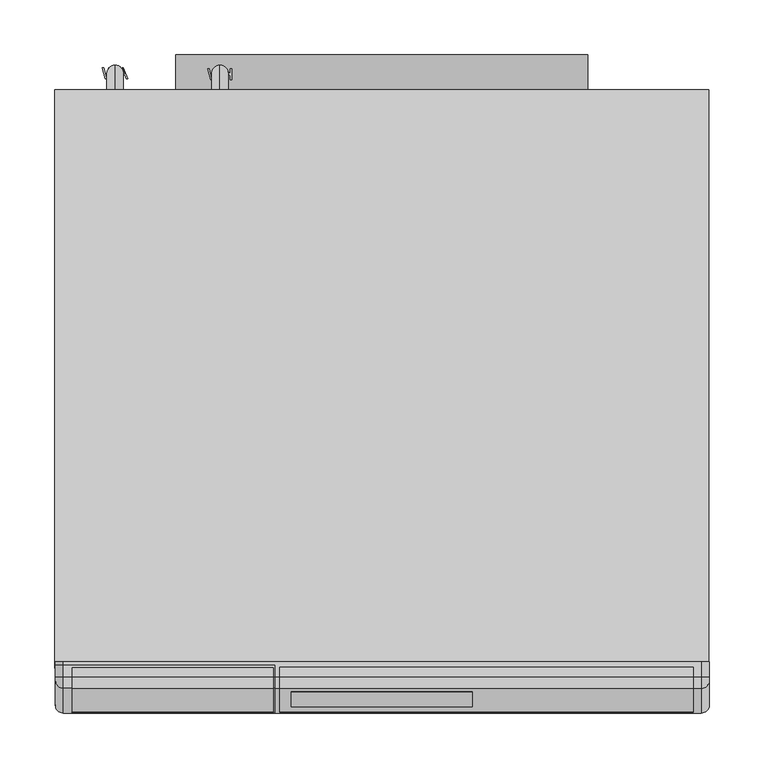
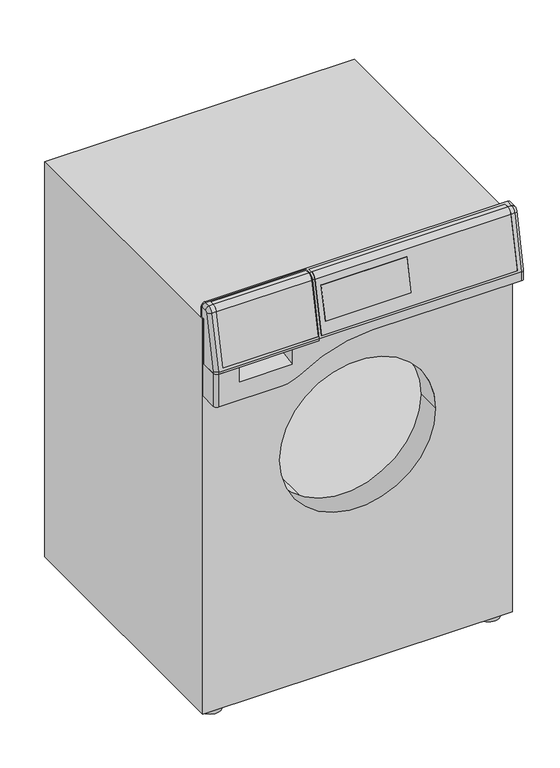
"""IFC4 building model written with IfcOpenShell, lengths in millimetres: proxy geometry, 12507000_AUS_PWM1108DP_LWSmartBi : 51110801_AUS_12507000_PWM1108DP_LWSmartBi."""

from ifc_helpers import new_model, si_unit, point, frame, frame_2d, origin, origin_with_axes, place, context, project, spatial, polyline, circle_curve, ellipse_curve, trimmed, segment, composite_curve, outline, extrude, source, transform, mapped, element, save
from ifc_brep_helpers import plane_surface, cylinder_surface, revolved_surface, advanced_brep


def specialty_equipment_c5ddfba9(model_context):
    return source(origin(), model_context, "Body", "SolidModel", [
        advanced_brep(
        [(-297.5, -556.5, 819.0), (-297.5, -562.0, 819.0), (-297.5, -562.0, 727.0), (-297.5, -593.0, 727.0), (-297.5, -593.0, 730.2642704), (-297.5, -570.6353607, 835.4816256), (-297.5, -566.8274781, 838.6486082), (-297.5, -556.5, 838.9190427), (-97.5, -577.4823939, 836.9370075), (-97.5, -600.0, 731.0), (-97.5, -600.0, 727.0), (-97.5, -562.0, 727.0), (-97.5, -562.0, 819.0), (-97.5, -556.5, 819.0), (-97.5, -556.5, 845.9214422), (-97.5, -567.0107168, 845.6462094), (-98.5, -577.4823939, 836.9370075), (-98.5, -599.1497738, 735.0), (-282.5, -599.1497738, 735.0), (-282.5, -577.4823939, 836.9370075), (-290.5, -577.4823939, 836.9370075), (-290.5, -600.0, 731.0), (-290.5, -600.0, 727.0), (-290.5, -556.5, 845.9214422), (-290.5, -567.0107168, 845.6462094), (-282.5, -567.0107168, 845.6462094), (-282.5, -558.5, 845.8690704), (-98.5, -558.5, 845.8690704), (-98.5, -567.0107168, 845.6462094), (-98.5, -576.5042463, 836.7290958), (-98.5, -598.1274332, 735.0), (-98.5, -558.5, 844.8687276), (-98.5, -566.9845398, 844.6465521), (-282.5, -576.5042463, 836.7290958), (-282.5, -566.9845398, 844.6465521), (-282.5, -558.5, 844.8687276), (-282.5, -598.1274332, 735.0)],
        [
            (0, 1),
            (1, 2),
            (2, 3),
            (3, 4),
            (4, 5),
            (5, 6, circle_curve(frame((-297.5, -566.7227703, 834.6499789), z_axis=(-1.0, 0.0, 0.0), x_axis=(0.0, -0.9781476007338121, 0.20791169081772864)), 4.0)),
            (6, 7),
            (7, 0),
            (8, 9),
            (9, 10),
            (10, 11),
            (11, 12),
            (12, 13),
            (13, 14),
            (14, 15),
            (15, 8, circle_curve(frame((-97.5, -566.7227703, 834.6499789), z_axis=(1.0, 0.0, 0.0), x_axis=(0.0, 1.0, 0.0)), 11.0)),
            (8, 16),
            (16, 17),
            (17, 18),
            (18, 19),
            (19, 20),
            (20, 21),
            (21, 9),
            (21, 22),
            (22, 10),
            (22, 3, circle_curve(frame((-290.5, -593.0, 727.0), z_axis=(0.0, 0.0, -1.0), x_axis=(0.0, 1.0, 0.0)), 7.0)),
            (2, 11),
            (1, 12),
            (0, 13),
            (7, 23, ellipse_curve(frame((-290.5, -556.5, 838.9190427), z_axis=(0.0, 1.0, 0.0), x_axis=(0.0, 0.0, 1.0)), 7.0023995, 7.0)),
            (23, 14),
            (23, 24),
            (24, 25),
            (25, 26),
            (26, 27),
            (27, 28),
            (28, 15),
            (28, 16, circle_curve(frame((-98.5, -566.7227703, 834.6499789), z_axis=(1.0, 0.0, 0.0), x_axis=(0.0, 1.0, 0.0)), 11.0)),
            (19, 25, circle_curve(frame((-282.5, -566.7227703, 834.6499789), z_axis=(-1.0, 0.0, 0.0), x_axis=(0.0, 1.0, 0.0)), 11.0)),
            (24, 20, circle_curve(frame((-290.5, -566.7227703, 834.6499789), z_axis=(1.0, 0.0, 0.0), x_axis=(0.0, 1.0, 0.0)), 11.0)),
            (29, 30),
            (30, 17),
            (27, 31),
            (31, 32),
            (32, 29, circle_curve(frame((-98.5, -566.7227703, 834.6499789), z_axis=(1.0, 0.0, 0.0), x_axis=(0.0, 1.0, 0.0)), 10.0)),
            (33, 34, circle_curve(frame((-282.5, -566.7227703, 834.6499789), z_axis=(-1.0, 0.0, 0.0), x_axis=(0.0, 1.0, 0.0)), 10.0)),
            (34, 35),
            (35, 26),
            (18, 36),
            (36, 33),
            (29, 33),
            (36, 30),
            (32, 34),
            (31, 35),
            (6, 24, circle_curve(frame((-290.5, -566.8274781, 838.6486082), z_axis=(0.0, 0.9996573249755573, 0.02617694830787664), x_axis=(0.0, 0.02617694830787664, -0.9996573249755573)), 7.0)),
            (21, 4, ellipse_curve(frame((-290.5, -593.0, 730.2642704), z_axis=(0.0, -0.10452846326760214, -0.9945218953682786), x_axis=(0.0, -0.9945218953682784, 0.1045284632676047)), 7.038558, 7.0)),
            (20, 5, circle_curve(frame((-290.5, -570.6353607, 835.4816256), z_axis=(0.0, -0.20791169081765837, -0.9781476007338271), x_axis=(0.0, 0.9781476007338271, -0.20791169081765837)), 7.0)),
        ],
        [
            plane_surface(frame((-297.5, -577.4823939, 836.9370075), z_axis=(-1.0, 0.0, 0.0), x_axis=(0.0, 0.20791169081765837, 0.9781476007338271))),
            plane_surface(frame((-97.5, -577.4823939, 836.9370075), z_axis=(1.0, 0.0, 0.0), x_axis=(0.0, -0.20791169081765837, -0.9781476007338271))),
            plane_surface(frame((-97.5, -577.4823939, 836.9370075), z_axis=(0.0, -0.9781476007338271, 0.20791169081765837), x_axis=(-1.0, 0.0, 0.0))),
            plane_surface(frame((-97.5, -600.0, 731.0), z_axis=(0.0, -1.0, 0.0), x_axis=(-1.0, 0.0, 0.0))),
            plane_surface(frame((-97.5, -600.0, 727.0), z_axis=(0.0, 0.0, -1.0), x_axis=(-1.0, 0.0, 0.0))),
            plane_surface(frame((-97.5, -562.0, 727.0), z_axis=(0.0, 1.0, 0.0), x_axis=(-1.0, 0.0, 0.0))),
            plane_surface(frame((-97.5, -562.0, 819.0), z_axis=(0.0, 0.0, -1.0), x_axis=(-1.0, 0.0, 0.0))),
            plane_surface(frame((-97.5, -556.5, 819.0), z_axis=(0.0, 1.0, 0.0), x_axis=(-1.0, 0.0, 0.0))),
            plane_surface(frame((-97.5, -556.5, 845.9214422), z_axis=(0.0, -0.02617694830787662, 0.9996573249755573), x_axis=(-1.0, 0.0, 0.0))),
            cylinder_surface(frame((-297.5, -566.7227703, 834.6499789), z_axis=(1.0, 0.0, 0.0), x_axis=(0.0, 1.0, 0.0)), 11.0),
            plane_surface(frame((-98.5, -556.7227703, 834.6499789), z_axis=(-1.0, 0.0, 0.0), x_axis=(0.0, 0.0, -1.0))),
            plane_surface(frame((-282.5, -556.7227703, 834.6499789), z_axis=(1.0, 0.0, 0.0), x_axis=(0.0, 0.0, 1.0))),
            plane_surface(frame((-98.5, -598.1274332, 735.0), z_axis=(0.0, -0.9781476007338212, 0.2079116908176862), x_axis=(-1.0, 0.0, 0.0))),
            cylinder_surface(frame((-282.5, -566.7227703, 834.6499789), z_axis=(-1.0, 0.0, 0.0), x_axis=(0.0, 1.0, 0.0)), 10.0),
            plane_surface(frame((-98.5, -566.9845398, 844.6465521), z_axis=(0.0, -0.026176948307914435, 0.9996573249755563), x_axis=(-1.0, 0.0, 0.0))),
            plane_surface(frame((-98.5, -558.5, 844.8687276), z_axis=(0.0, -1.0, 0.0), x_axis=(-1.0, 0.0, 0.0))),
            plane_surface(frame((-98.5, -599.1497738, 735.0), z_axis=(0.0, 0.0, 1.0), x_axis=(-1.0, 0.0, 0.0))),
            cylinder_surface(frame((-290.5, -566.8274781, 838.6486082), z_axis=(0.0, 0.9996573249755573, 0.02617694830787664), x_axis=(0.0, 0.02617694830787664, -0.9996573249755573)), 7.0),
            cylinder_surface(frame((-290.5, -593.0, 727.0), z_axis=(0.0, 0.0, 1.0), x_axis=(0.0, 1.0, 0.0)), 7.0),
            cylinder_surface(frame((-290.5, -593.1529668, 729.5446182), z_axis=(0.0, 0.20791169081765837, 0.9781476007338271), x_axis=(0.0, 0.9781476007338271, -0.20791169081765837)), 7.0),
            revolved_surface(trimmed(ellipse_curve(frame((-290.5, -570.6353607, 835.4816256), z_axis=(0.0, -0.20791169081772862, -0.9781476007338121), x_axis=(0.0, 0.9781476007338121, -0.20791169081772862)), 7.0, 7.0), [point((-290.5, -577.4823939, 836.9370075))], [point((-297.5, -570.6353607, 835.4816256))], True, "CARTESIAN"), (-297.5, -566.7227703, 834.6499789), (-1.0, 0.0, 0.0)),
        ],
        [
            (0, [[1, 2, 3, 4, 5, 6, 7, 8]]),
            (1, [[9, 10, 11, 12, 13, 14, 15, 16]]),
            (2, [[-9, 17, 18, 19, 20, 21, 22, 23]]),
            (3, [[-10, -23, 24, 25]]),
            (4, [[-11, -25, 26, -3, 27]]),
            (5, [[-2, 28, -12, -27]]),
            (6, [[-1, 29, -13, -28]]),
            (7, [[-14, -29, -8, 30, 31]]),
            (8, [[-15, -31, 32, 33, 34, 35, 36, 37]]),
            (9, [[-16, -37, 38, -17]]),
            (9, [[39, -33, 40, -21]]),
            (10, [[41, 42, -18, -38, -36, 43, 44, 45]]),
            (11, [[46, 47, 48, -34, -39, -20, 49, 50]]),
            (12, [[-41, 51, -50, 52]]),
            (13, [[-45, 53, -46, -51]]),
            (14, [[-44, 54, -47, -53]]),
            (15, [[-43, -35, -48, -54]]),
            (16, [[-42, -52, -49, -19]]),
            (17, [[55, -32, -30, -7]]),
            (18, [[56, -4, -26, -24]]),
            (19, [[-56, -22, 57, -5]]),
            (20, [[-57, -40, -55, -6]]),
        ],
    ),
        extrude(outline(polyline([(-593.2386322, 758.0), (-594.2609728, 758.0), (-580.4447963, 823.0), (-579.4224557, 823.0), (-593.2386322, 758.0)])), frame((-82.5, 0.0, 0.0), z_axis=(1.0, 0.0, 0.0), x_axis=(0.0, 1.0, 0.0)), (0.0, 0.0, 1.0), 165.0),
        advanced_brep(
        [(284.0, -576.5042463, 836.7290958), (284.0, -566.9845398, 844.6465521), (284.0, -558.5, 844.8687276), (284.0, -558.5, 845.8690704), (284.0, -567.0107168, 845.6462094), (284.0, -577.4823939, 836.9370075), (284.0, -599.1497738, 735.0), (284.0, -598.1274332, 735.0), (-93.0, -576.5042463, 836.7290958), (-93.0, -598.1274332, 735.0), (-93.0, -599.1497738, 735.0), (-93.0, -577.4823939, 836.9370075), (-93.0, -567.0107168, 845.6462094), (-93.0, -558.5, 845.8690704), (-93.0, -558.5, 844.8687276), (-93.0, -566.9845398, 844.6465521), (82.5, -580.4447963, 823.0), (82.5, -594.2609728, 758.0), (-82.5, -594.2609728, 758.0), (-82.5, -580.4447963, 823.0), (82.5, -593.2386322, 758.0), (82.5, -579.4224557, 823.0), (-82.5, -579.4224557, 823.0), (-82.5, -593.2386322, 758.0)],
        [
            (0, 1, circle_curve(frame((284.0, -566.7227703, 834.6499789), z_axis=(-1.0, 0.0, 0.0), x_axis=(0.0, 1.0, 0.0)), 10.0)),
            (1, 2),
            (2, 3),
            (3, 4),
            (4, 5, circle_curve(frame((284.0, -566.7227703, 834.6499789), z_axis=(1.0, 0.0, 0.0), x_axis=(0.0, 1.0, 0.0)), 11.0)),
            (5, 6),
            (6, 7),
            (7, 0),
            (8, 9),
            (9, 10),
            (10, 11),
            (11, 12, circle_curve(frame((-93.0, -566.7227703, 834.6499789), z_axis=(-1.0, 0.0, 0.0), x_axis=(0.0, 1.0, 0.0)), 11.0)),
            (12, 13),
            (13, 14),
            (14, 15),
            (15, 8, circle_curve(frame((-93.0, -566.7227703, 834.6499789), z_axis=(1.0, 0.0, 0.0), x_axis=(0.0, 1.0, 0.0)), 10.0)),
            (0, 8),
            (15, 1),
            (14, 2),
            (13, 3),
            (12, 4),
            (11, 5),
            (10, 6),
            (16, 17),
            (17, 18),
            (18, 19),
            (19, 16),
            (9, 7),
            (20, 21),
            (21, 22),
            (22, 23),
            (23, 20),
            (20, 17),
            (16, 21),
            (22, 19),
            (18, 23),
        ],
        [
            plane_surface(frame((284.0, -556.7227703, 834.6499789), z_axis=(1.0, 0.0, 0.0), x_axis=(0.0, 0.0, -1.0))),
            plane_surface(frame((-93.0, -556.7227703, 834.6499789), z_axis=(-1.0, 0.0, 0.0), x_axis=(0.0, 0.0, 1.0))),
            revolved_surface(polyline([(-93.0, -556.7227703, 834.6499789), (284.0, -556.7227703, 834.6499789)]), (-93.0, -566.7227703, 834.6499789), (-1.0, 0.0, 0.0)),
            plane_surface(frame((284.0, -566.9845398, 844.6465521), z_axis=(0.0, 0.02617694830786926, -0.9996573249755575), x_axis=(-1.0, 0.0, 0.0))),
            plane_surface(frame((284.0, -558.5, 844.8687276), z_axis=(0.0, 1.0, 0.0), x_axis=(-1.0, 0.0, 0.0))),
            plane_surface(frame((284.0, -558.5, 845.8690704), z_axis=(0.0, -0.026176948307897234, 0.9996573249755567), x_axis=(-1.0, 0.0, 0.0))),
            cylinder_surface(frame((-93.0, -566.7227703, 834.6499789), z_axis=(1.0, 0.0, 0.0), x_axis=(0.0, 1.0, 0.0)), 11.0),
            plane_surface(frame((284.0, -577.4823939, 836.9370075), z_axis=(0.0, -0.9781476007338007, 0.20791169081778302), x_axis=(-1.0, 0.0, 0.0))),
            plane_surface(frame((284.0, -599.1497738, 735.0), z_axis=(0.0, 0.0, -1.0), x_axis=(-1.0, 0.0, 0.0))),
            plane_surface(frame((284.0, -598.1274332, 735.0), z_axis=(0.0, 0.9781476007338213, -0.20791169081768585), x_axis=(-1.0, 0.0, 0.0))),
            plane_surface(frame((82.5, -580.4447963, 823.0), z_axis=(-1.0, 0.0, 0.0), x_axis=(0.0, -1.0, 0.0))),
            plane_surface(frame((-82.5, -580.4447963, 823.0), z_axis=(1.0, 0.0, 0.0), x_axis=(0.0, 1.0, 0.0))),
            plane_surface(frame((82.5, -579.4224557, 823.0), z_axis=(0.0, 0.0, -1.0), x_axis=(-1.0, 0.0, 0.0))),
            plane_surface(frame((82.5, -594.2609728, 758.0), z_axis=(0.0, 0.0, 1.0), x_axis=(-1.0, 0.0, 0.0))),
        ],
        [
            (0, [[1, 2, 3, 4, 5, 6, 7, 8]]),
            (1, [[9, 10, 11, 12, 13, 14, 15, 16]]),
            (2, [[-1, 17, -16, 18]]),
            (3, [[-2, -18, -15, 19]]),
            (4, [[-3, -19, -14, 20]]),
            (5, [[-4, -20, -13, 21]]),
            (6, [[-5, -21, -12, 22]]),
            (7, [[-6, -22, -11, 23], [24, 25, 26, 27]]),
            (8, [[-7, -23, -10, 28]]),
            (9, [[-8, -28, -9, -17], [29, 30, 31, 32]]),
            (10, [[33, -24, 34, -29]]),
            (11, [[35, -26, 36, -31]]),
            (12, [[-34, -27, -35, -30]]),
            (13, [[-33, -32, -36, -25]]),
        ],
    ),
        advanced_brep(
        [(298.5, -559.0, 816.0), (298.5, -553.5, 816.0), (298.5, -553.5, 838.9976005), (298.5, -566.8274781, 838.6486082), (298.5, -570.6353607, 835.4816256), (298.5, -593.0, 730.2642704), (298.5, -593.0, 713.0), (298.5, -559.0, 713.0), (-297.5, -559.0, 816.0), (-297.5, -559.0, 660.0), (-297.5, -593.0, 660.0), (-297.5, -593.0, 727.0), (-297.5, -562.0, 727.0), (-297.5, -562.0, 819.0), (-297.5, -556.5, 819.0), (-297.5, -556.5, 838.9190427), (-297.5, -553.5, 838.9976005), (-297.5, -553.5, 816.0), (-290.5, -553.5, 846.0), (291.5, -553.5, 846.0), (284.0, -558.5, 845.8690704), (284.0, -567.0107168, 845.6462094), (291.5, -567.0107168, 845.6462094), (-290.5, -556.5, 845.9214422), (-97.5, -556.5, 845.9214422), (-97.5, -567.0107168, 845.6462094), (-93.0, -567.0107168, 845.6462094), (-93.0, -558.5, 845.8690704), (284.0, -577.4823939, 836.9370075), (291.5000072, -577.4823939, 836.9370075), (-93.0, -577.4823939, 836.9370075), (-97.5, -577.4823939, 836.9370075), (284.0, -599.1497738, 735.0), (-93.0, -599.1497738, 735.0), (-97.5, -600.0, 731.0), (291.5, -600.0, 731.0), (-97.5, -600.0, 727.0), (-148.5, -600.0, 727.0), (-148.5, -600.0, 697.0), (-251.5, -600.0, 697.0), (-251.5, -600.0, 727.0), (-290.5, -600.0, 727.0), (-290.5, -600.0, 660.0), (-170.6302935, -600.0, 660.0), (-135.780818, -600.0, 670.5165354), (5.0, -600.0, 713.0), (291.5, -600.0, 713.0), (-170.6302935, -559.0, 660.0), (5.0, -559.0, 713.0), (-135.780818, -559.0, 670.5165354), (284.0, -558.5, 844.8687276), (284.0, -566.9845398, 844.6465521), (284.0, -576.5042463, 836.7290958), (284.0, -598.1274332, 735.0), (-93.0, -598.1274332, 735.0), (-93.0, -576.5042463, 836.7290958), (-93.0, -566.9845398, 844.6465521), (-93.0, -558.5, 844.8687276), (-97.5, -556.5, 819.0), (-97.5, -562.0, 819.0), (-97.5, -562.0, 727.0), (-148.5, -562.0, 727.0), (-251.5, -562.0, 727.0), (-251.5, -562.0, 703.7004253), (-148.5, -562.0, 703.7004253)],
        [
            (0, 1),
            (1, 2),
            (2, 3),
            (3, 4, circle_curve(frame((298.5, -566.7227703, 834.6499789), z_axis=(1.0, 0.0, 0.0), x_axis=(0.0, -0.02617694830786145, 0.9996573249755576)), 4.0)),
            (4, 5),
            (5, 6),
            (6, 7),
            (7, 0),
            (8, 9),
            (9, 10),
            (10, 11),
            (11, 12),
            (12, 13),
            (13, 14),
            (14, 15),
            (15, 16),
            (16, 17),
            (17, 8),
            (0, 8),
            (17, 1),
            (16, 18, ellipse_curve(frame((-290.5, -553.5, 838.9976005), z_axis=(0.0, 1.0, 0.0), x_axis=(0.0, 0.0, 1.0)), 7.0023995, 7.0)),
            (18, 19),
            (19, 2, ellipse_curve(frame((291.5, -553.5, 838.9976005), z_axis=(0.0, 1.0, 0.0), x_axis=(0.0, 0.0, -1.0)), 7.0023995, 7.0)),
            (20, 21),
            (21, 22),
            (22, 19),
            (18, 23),
            (23, 24),
            (24, 25),
            (25, 26),
            (26, 27),
            (27, 20),
            (21, 28, circle_curve(frame((284.0, -566.7227703, 834.6499789), z_axis=(1.0, 0.0, 0.0), x_axis=(0.0, 1.0, 0.0)), 11.0)),
            (28, 29),
            (29, 22, circle_curve(frame((291.5, -566.7227703, 834.6499789), z_axis=(-1.0, 0.0, 0.0), x_axis=(0.0, 1.0, 0.0)), 11.0)),
            (30, 26, circle_curve(frame((-93.0, -566.7227703, 834.6499789), z_axis=(-1.0, 0.0, 0.0), x_axis=(0.0, 1.0, 0.0)), 11.0)),
            (25, 31, circle_curve(frame((-97.5, -566.7227703, 834.6499789), z_axis=(1.0, 0.0, 0.0), x_axis=(0.0, 1.0, 0.0)), 11.0)),
            (31, 30),
            (28, 32),
            (32, 33),
            (33, 30),
            (31, 34),
            (34, 35),
            (35, 29),
            (34, 36),
            (36, 37),
            (37, 38),
            (38, 39),
            (39, 40),
            (40, 41),
            (41, 42),
            (42, 43),
            (43, 44, circle_curve(frame((-170.6302935, -600.0, 723.0), z_axis=(0.0, -1.0, 0.0), x_axis=(1.0, 0.0, 0.0)), 63.0)),
            (44, 45, circle_curve(frame((5.0, -600.0, 458.5), z_axis=(0.0, 1.0, 0.0), x_axis=(1.0, 0.0, 0.0)), 254.5)),
            (45, 46),
            (46, 35),
            (9, 47),
            (47, 43),
            (42, 10, circle_curve(frame((-290.5, -593.0, 660.0), z_axis=(0.0, 0.0, -1.0), x_axis=(0.0, 1.0, 0.0)), 7.0)),
            (7, 48),
            (48, 49, circle_curve(frame((5.0, -559.0, 458.5), z_axis=(0.0, -1.0, 0.0), x_axis=(1.0, 0.0, 0.0)), 254.5)),
            (49, 47, circle_curve(frame((-170.6302935, -559.0, 723.0), z_axis=(0.0, 1.0, 0.0), x_axis=(1.0, 0.0, 0.0)), 63.0)),
            (20, 50),
            (50, 51),
            (51, 52, circle_curve(frame((284.0, -566.7227703, 834.6499789), z_axis=(1.0, 0.0, 0.0), x_axis=(0.0, 1.0, 0.0)), 10.0)),
            (52, 53),
            (53, 32),
            (33, 54),
            (54, 55),
            (55, 56, circle_curve(frame((-93.0, -566.7227703, 834.6499789), z_axis=(-1.0, 0.0, 0.0), x_axis=(0.0, 1.0, 0.0)), 10.0)),
            (56, 57),
            (57, 27),
            (53, 54),
            (52, 55),
            (51, 56),
            (50, 57),
            (24, 58),
            (58, 59),
            (59, 60),
            (60, 36),
            (60, 61),
            (61, 37),
            (62, 12),
            (11, 41, circle_curve(frame((-290.5, -593.0, 727.0), z_axis=(0.0, 0.0, 1.0), x_axis=(0.0, 1.0, 0.0)), 7.0)),
            (40, 62),
            (59, 13),
            (62, 63),
            (63, 64),
            (64, 61),
            (58, 14),
            (23, 15, ellipse_curve(frame((-290.5, -556.5, 838.9190427), z_axis=(0.0, -1.0, 0.0), x_axis=(0.0, 0.0, 1.0)), 7.0023995, 7.0)),
            (64, 38),
            (39, 63),
            (22, 3, circle_curve(frame((291.5, -566.8274781, 838.6486082), z_axis=(0.0, 0.9996573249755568, 0.026176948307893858), x_axis=(1.0, 0.0, 0.0)), 7.0)),
            (29, 4, circle_curve(frame((291.5, -570.6353607, 835.4816256), z_axis=(0.0, 0.20791169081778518, 0.9781476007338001), x_axis=(1.0, 0.0, 0.0)), 7.0)),
            (35, 5, ellipse_curve(frame((291.5, -593.0, 730.2642704), z_axis=(0.0, 0.10452846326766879, 0.9945218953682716), x_axis=(0.0, -0.9945218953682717, 0.10452846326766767)), 7.038558, 7.0)),
            (46, 6, circle_curve(frame((291.5, -593.0, 713.0), z_axis=(0.0, 0.0, 1.0), x_axis=(1.0, 0.0, 0.0)), 7.0)),
            (45, 48),
            (44, 49),
        ],
        [
            plane_surface(frame((298.5, -553.5, 816.0), z_axis=(1.0, 0.0, 0.0), x_axis=(0.0, 1.0, 0.0))),
            plane_surface(frame((-297.5, -553.5, 816.0), z_axis=(-1.0, 0.0, 0.0), x_axis=(0.0, -1.0, 0.0))),
            plane_surface(frame((298.5, -559.0, 816.0), z_axis=(0.0, 0.0, -1.0), x_axis=(-1.0, 0.0, 0.0))),
            plane_surface(frame((298.5, -553.5, 816.0), z_axis=(0.0, 1.0, 0.0), x_axis=(-1.0, 0.0, 0.0))),
            plane_surface(frame((298.5, -553.5, 846.0), z_axis=(0.0, -0.02617694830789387, 0.9996573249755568), x_axis=(-1.0, 0.0, 0.0))),
            cylinder_surface(frame((-297.5, -566.7227703, 834.6499789), z_axis=(1.0, 0.0, 0.0), x_axis=(0.0, 1.0, 0.0)), 11.0),
            plane_surface(frame((298.5, -577.4823939, 836.9370075), z_axis=(0.0, -0.9781476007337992, 0.20791169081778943), x_axis=(-1.0, 0.0, 0.0))),
            plane_surface(frame((298.5, -600.0, 731.0), z_axis=(0.0, -1.0, 0.0), x_axis=(-1.0, 0.0, 0.0))),
            plane_surface(frame((298.5, -600.0, 660.0), z_axis=(0.0, 0.0, -1.0), x_axis=(-1.0, 0.0, 0.0))),
            plane_surface(frame((298.5, -559.0, 660.0), z_axis=(0.0, 1.0, 0.0), x_axis=(-1.0, 0.0, 0.0))),
            plane_surface(frame((284.0, -599.1497738, 735.0), z_axis=(-1.0, 0.0, 0.0), x_axis=(0.0, 1.0, 0.0))),
            plane_surface(frame((-93.0, -599.1497738, 735.0), z_axis=(1.0, 0.0, 0.0), x_axis=(0.0, -1.0, 0.0))),
            plane_surface(frame((284.0, -599.1497738, 735.0), z_axis=(0.0, 0.0, 1.0), x_axis=(-1.0, 0.0, 0.0))),
            plane_surface(frame((284.0, -598.1274332, 735.0), z_axis=(0.0, -0.978147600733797, 0.20791169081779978), x_axis=(-1.0, 0.0, 0.0))),
            cylinder_surface(frame((-93.0, -566.7227703, 834.6499789), z_axis=(-1.0, 0.0, 0.0), x_axis=(0.0, 1.0, 0.0)), 10.0),
            plane_surface(frame((284.0, -566.9845398, 844.6465521), z_axis=(0.0, -0.026176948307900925, 0.9996573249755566), x_axis=(-1.0, 0.0, 0.0))),
            plane_surface(frame((284.0, -558.5, 844.8687276), z_axis=(0.0, -1.0, 0.0), x_axis=(-1.0, 0.0, 0.0))),
            plane_surface(frame((-97.5, -600.0, 727.0), z_axis=(-1.0, 0.0, 0.0), x_axis=(0.0, 1.0, 0.0))),
            plane_surface(frame((-97.5, -600.0, 727.0), z_axis=(0.0, 0.0, 1.0), x_axis=(-1.0, 0.0, 0.0))),
            plane_surface(frame((-97.5, -562.0, 727.0), z_axis=(0.0, -1.0, 0.0), x_axis=(-1.0, 0.0, 0.0))),
            plane_surface(frame((-97.5, -562.0, 819.0), z_axis=(0.0, 0.0, 1.0), x_axis=(-1.0, 0.0, 0.0))),
            plane_surface(frame((-97.5, -556.5, 819.0), z_axis=(0.0, -1.0, 0.0), x_axis=(-1.0, 0.0, 0.0))),
            plane_surface(frame((-148.5, -600.0, 697.0), z_axis=(-1.0, 0.0, 0.0), x_axis=(0.0, 0.9848077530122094, 0.17364817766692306))),
            plane_surface(frame((-251.5, -600.0, 697.0), z_axis=(1.0, 0.0, 0.0), x_axis=(0.0, -0.9848077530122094, -0.17364817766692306))),
            plane_surface(frame((-148.5, -600.0, 697.0), z_axis=(0.0, -0.17364817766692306, 0.9848077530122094), x_axis=(-1.0, 0.0, 0.0))),
            cylinder_surface(frame((-290.5, -593.0, 660.0), z_axis=(0.0, 0.0, 1.0), x_axis=(0.0, 1.0, 0.0)), 7.0),
            cylinder_surface(frame((-290.5, -566.8274781, 838.6486082), z_axis=(0.0, 0.9996573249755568, 0.026176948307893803), x_axis=(0.0, 0.026176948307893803, -0.9996573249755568)), 7.0),
            cylinder_surface(frame((291.5, -553.3167614, 839.0023987), z_axis=(0.0, -0.9996573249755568, -0.026176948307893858), x_axis=(1.0, 0.0, 0.0)), 7.0),
            revolved_surface(trimmed(ellipse_curve(frame((291.5, -566.8274781, 838.6486082), z_axis=(0.0, 0.9996573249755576, 0.02617694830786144), x_axis=(1.0, 0.0, 0.0)), 7.0, 7.0), [point((291.5, -567.0107168, 845.6462094))], [point((298.5, -566.8274781, 838.6486082))], True, "CARTESIAN"), (298.5, -566.7227703, 834.6499789), (1.0, 0.0, 0.0)),
            cylinder_surface(frame((291.5, -570.6353607, 835.4816256), z_axis=(0.0, -0.20791169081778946, -0.9781476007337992), x_axis=(1.0, 0.0, 0.0)), 7.0),
            cylinder_surface(frame((291.5, -593.0, 731.0), z_axis=(0.0, 0.0, -1.0), x_axis=(1.0, 0.0, 0.0)), 7.0),
            plane_surface(frame((298.5, -600.0, 713.0), z_axis=(0.0, 0.0, -1.0), x_axis=(0.0, 1.0, 0.0))),
            revolved_surface(polyline([(259.5, -600.0, 458.5), (259.5, -559.0, 458.5)]), (5.0, -559.0, 458.5), (0.0, -1.0, 0.0)),
            cylinder_surface(frame((-170.6302935, -559.0, 723.0), z_axis=(0.0, 1.0, 0.0), x_axis=(1.0, 0.0, 0.0)), 63.0),
        ],
        [
            (0, [[1, 2, 3, 4, 5, 6, 7, 8]]),
            (1, [[9, 10, 11, 12, 13, 14, 15, 16, 17, 18]]),
            (2, [[-1, 19, -18, 20]]),
            (3, [[-20, -17, 21, 22, 23, -2]]),
            (4, [[24, 25, 26, -22, 27, 28, 29, 30, 31, 32]]),
            (5, [[33, 34, 35, -25]]),
            (5, [[36, -30, 37, 38]]),
            (6, [[39, 40, 41, -38, 42, 43, 44, -34]]),
            (7, [[45, 46, 47, 48, 49, 50, 51, 52, 53, 54, 55, 56, -43]]),
            (8, [[-10, 57, 58, -52, 59]]),
            (9, [[-9, -19, -8, 60, 61, 62, -57]]),
            (10, [[63, 64, 65, 66, 67, -39, -33, -24]]),
            (11, [[68, 69, 70, 71, 72, -31, -36, -41]]),
            (12, [[-67, 73, -68, -40]]),
            (13, [[-66, 74, -69, -73]]),
            (14, [[-65, 75, -70, -74]]),
            (15, [[-64, 76, -71, -75]]),
            (16, [[-63, -32, -72, -76]]),
            (17, [[77, 78, 79, 80, -45, -42, -37, -29]]),
            (18, [[-80, 81, 82, -46]]),
            (18, [[83, -12, 84, -50, 85]]),
            (19, [[-79, 86, -13, -83, 87, 88, 89, -81]]),
            (20, [[-78, 90, -14, -86]]),
            (21, [[-77, -28, 91, -15, -90]]),
            (22, [[-89, 92, -47, -82]]),
            (23, [[93, -87, -85, -49]]),
            (24, [[-92, -88, -93, -48]]),
            (25, [[-11, -59, -51, -84]]),
            (26, [[-16, -91, -27, -21]]),
            (27, [[94, -3, -23, -26]]),
            (28, [[-94, -35, 95, -4]]),
            (29, [[-95, -44, 96, -5]]),
            (30, [[-96, -56, 97, -6]]),
            (31, [[98, -60, -7, -97, -55]]),
            (32, [[-98, -54, 99, -61]]),
            (33, [[-99, -53, -58, -62]]),
        ],
    ),
        extrude(outline(composite_curve([segment(polyline([(-598.1274332, 735.0), (-599.1497738, 735.0), (-577.4823939, 836.9370075)]), True, "CONTINUOUS"), segment(trimmed(circle_curve(frame_2d((-566.7227703, 834.6499789)), 11.0), [point((-577.4823939, 836.9370075))], [point((-567.0107168, 845.6462094))], False, "CARTESIAN"), True, "CONTINUOUS"), segment(polyline([(-567.0107168, 845.6462094), (-558.5, 845.8690704), (-558.5, 844.8687276), (-566.9845398, 844.6465521)]), True, "CONTINUOUS"), segment(trimmed(circle_curve(frame_2d((-566.7227703, 834.6499789)), 10.0), [point((-566.9845398, 844.6465521))], [point((-576.5042463, 836.7290958))], True, "CARTESIAN"), True, "CONTINUOUS"), segment(polyline([(-576.5042463, 836.7290958), (-598.1274332, 735.0)]), True, "CONTINUOUS")], self_intersect=False)), frame((-282.5, 0.0, 0.0), z_axis=(1.0, 0.0, 0.0), x_axis=(0.0, 1.0, 0.0)), (0.0, 0.0, 1.0), 184.0),
        extrude(outline(polyline([(-24.4084549, 43.3578802), (-24.4084549, 53.4035112), (-17.1881576, 53.4035112), (-17.1881576, 52.1478073), (-23.152751, 52.1478073), (-23.152751, 49.1655106), (-17.5020836, 49.1655106), (-17.5020836, 47.9098068), (-23.152751, 47.9098068), (-23.152751, 44.6135841), (-17.0311946, 44.6135841), (-17.0311946, 43.3578802), (-24.4084549, 43.3578802)])), frame((-104.0, 0.0, 0.0), z_axis=(1.0, 0.0, 0.0), x_axis=(0.0, 1.0, 0.0)), (0.0, 0.0, 1.0), 1.0),
        extrude(outline(polyline([(-15.1476388, 43.3578802), (-15.1476388, 53.4035112), (-13.8919349, 53.4035112), (-13.8919349, 44.6135841), (-8.8691194, 44.6135841), (-8.8691194, 43.3578802), (-15.1476388, 43.3578802)])), frame((-104.0, 0.0, 0.0), z_axis=(1.0, 0.0, 0.0), x_axis=(0.0, 1.0, 0.0)), (0.0, 0.0, 1.0), 1.0),
        advanced_brep(
        [(-243.0, -32.0, 741.5), (-243.0, -32.0, 756.5), (-243.0, -24.5, 741.5), (-243.0, -9.5, 756.5), (-243.0, -24.5, 719.0), (-243.0, -9.5, 719.0)],
        [
            (0, 1, circle_curve(frame((-243.0, -32.0, 749.0), z_axis=(0.0, -1.0, 0.0), x_axis=(0.0, 0.0, 1.0)), 7.5)),
            (1, 0, circle_curve(frame((-243.0, -32.0, 749.0), z_axis=(0.0, -1.0, 0.0), x_axis=(0.0, 0.0, 1.0)), 7.5)),
            (0, 2),
            (2, 3, ellipse_curve(frame((-243.0, -17.0, 749.0), z_axis=(0.0, -0.7071067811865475, 0.7071067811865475), x_axis=(0.0, -0.7071067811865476, -0.7071067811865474)), 10.6066017, 7.5)),
            (3, 1),
            (3, 2, ellipse_curve(frame((-243.0, -17.0, 749.0), z_axis=(0.0, -0.7071067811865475, 0.7071067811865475), x_axis=(0.0, -0.7071067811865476, -0.7071067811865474)), 10.6066017, 7.5)),
            (4, 5, circle_curve(frame((-243.0, -17.0, 719.0), z_axis=(0.0, 0.0, -1.0), x_axis=(0.0, 1.0, 0.0)), 7.5)),
            (5, 4, circle_curve(frame((-243.0, -17.0, 719.0), z_axis=(0.0, 0.0, -1.0), x_axis=(0.0, 1.0, 0.0)), 7.5)),
            (2, 4),
            (5, 3),
        ],
        [
            plane_surface(frame((-298.0, -32.0, 749.0), z_axis=(0.0, -1.0, 0.0), x_axis=(1.0, 0.0, 0.0))),
            cylinder_surface(frame((-243.0, -32.0, 749.0), z_axis=(0.0, -1.0, 0.0), x_axis=(0.0, 0.0, 1.0)), 7.5),
            plane_surface(frame((-298.0, -17.0, 719.0), z_axis=(0.0, 0.0, -1.0), x_axis=(1.0, 0.0, 0.0))),
            cylinder_surface(frame((-243.0, -17.0, 749.0), z_axis=(0.0, 0.0, 1.0), x_axis=(0.0, 1.0, 0.0)), 7.5),
        ],
        [
            (0, [[1, 2]]),
            (1, [[-1, 3, 4, 5]]),
            (1, [[-2, -5, 6, -3]]),
            (2, [[7, 8]]),
            (3, [[-4, 9, -8, 10]]),
            (3, [[-6, -10, -7, -9]]),
        ],
    ),
        advanced_brep(
        [(-147.5, -32.0, 748.5), (-147.5, -32.0, 763.5), (-147.5, -24.5, 748.5), (-147.5, -9.5, 763.5), (-147.5, -24.5, 726.0), (-147.5, -9.5, 726.0)],
        [
            (0, 1, circle_curve(frame((-147.5, -32.0, 756.0), z_axis=(0.0, -1.0, 0.0), x_axis=(0.0, 0.0, 1.0)), 7.5)),
            (1, 0, circle_curve(frame((-147.5, -32.0, 756.0), z_axis=(0.0, -1.0, 0.0), x_axis=(0.0, 0.0, 1.0)), 7.5)),
            (0, 2),
            (2, 3, ellipse_curve(frame((-147.5, -17.0, 756.0), z_axis=(0.0, -0.7071067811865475, 0.7071067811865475), x_axis=(0.0, -0.7071067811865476, -0.7071067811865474)), 10.6066017, 7.5)),
            (3, 1),
            (3, 2, ellipse_curve(frame((-147.5, -17.0, 756.0), z_axis=(0.0, -0.7071067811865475, 0.7071067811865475), x_axis=(0.0, -0.7071067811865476, -0.7071067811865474)), 10.6066017, 7.5)),
            (4, 5, circle_curve(frame((-147.5, -17.0, 726.0), z_axis=(0.0, 0.0, -1.0), x_axis=(0.0, 1.0, 0.0)), 7.5)),
            (5, 4, circle_curve(frame((-147.5, -17.0, 726.0), z_axis=(0.0, 0.0, -1.0), x_axis=(0.0, 1.0, 0.0)), 7.5)),
            (2, 4),
            (5, 3),
        ],
        [
            plane_surface(frame((-298.0, -32.0, 756.0), z_axis=(0.0, -1.0, 0.0), x_axis=(1.0, 0.0, 0.0))),
            cylinder_surface(frame((-147.5, -32.0, 756.0), z_axis=(0.0, -1.0, 0.0), x_axis=(0.0, 0.0, 1.0)), 7.5),
            plane_surface(frame((-298.0, -17.0, 726.0), z_axis=(0.0, 0.0, -1.0), x_axis=(1.0, 0.0, 0.0))),
            cylinder_surface(frame((-147.5, -17.0, 756.0), z_axis=(0.0, 0.0, 1.0), x_axis=(0.0, 1.0, 0.0)), 7.5),
        ],
        [
            (0, [[1, 2]]),
            (1, [[-1, 3, 4, 5]]),
            (1, [[-2, -5, 6, -3]]),
            (2, [[7, 8]]),
            (3, [[-4, 9, -8, 10]]),
            (3, [[-6, -10, -7, -9]]),
        ],
    ),
        advanced_brep(
        [(-126.47, -32.0, 49.0), (-141.53, -32.0, 49.0), (-126.47, -24.53, 49.0), (-141.53, -9.47, 49.0), (-104.0, -24.53, 49.0), (-104.0, -9.47, 49.0)],
        [
            (0, 1, circle_curve(frame((-134.0, -32.0, 49.0), z_axis=(0.0, -1.0, 0.0), x_axis=(-1.0, 0.0, 0.0)), 7.53)),
            (1, 0, circle_curve(frame((-134.0, -32.0, 49.0), z_axis=(0.0, -1.0, 0.0), x_axis=(-1.0, 0.0, 0.0)), 7.53)),
            (0, 2),
            (2, 3, ellipse_curve(frame((-134.0, -17.0, 49.0), z_axis=(-0.7071067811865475, -0.7071067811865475, 0.0), x_axis=(0.7071067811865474, -0.7071067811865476, 0.0)), 10.6490281, 7.53)),
            (3, 1),
            (3, 2, ellipse_curve(frame((-134.0, -17.0, 49.0), z_axis=(-0.7071067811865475, -0.7071067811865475, 0.0), x_axis=(0.7071067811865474, -0.7071067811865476, 0.0)), 10.6490281, 7.53)),
            (4, 5, circle_curve(frame((-104.0, -17.0, 49.0), z_axis=(1.0, 0.0, 0.0), x_axis=(0.0, 1.0, 0.0)), 7.53)),
            (5, 4, circle_curve(frame((-104.0, -17.0, 49.0), z_axis=(1.0, 0.0, 0.0), x_axis=(0.0, 1.0, 0.0)), 7.53)),
            (2, 4),
            (5, 3),
        ],
        [
            plane_surface(frame((-134.0, -32.0, 49.0), z_axis=(0.0, -1.0, 0.0), x_axis=(0.0, 0.0, 1.0))),
            cylinder_surface(frame((-134.0, -32.0, 49.0), z_axis=(0.0, -1.0, 0.0), x_axis=(-1.0, 0.0, 0.0)), 7.53),
            plane_surface(frame((-104.0, -17.0, 49.0), z_axis=(1.0, 0.0, 0.0), x_axis=(0.0, 0.0, 1.0))),
            cylinder_surface(frame((-134.0, -17.0, 49.0), z_axis=(-1.0, 0.0, 0.0), x_axis=(0.0, 1.0, 0.0)), 7.53),
        ],
        [
            (0, [[1, 2]]),
            (1, [[-1, 3, 4, 5]]),
            (1, [[-2, -5, 6, -3]]),
            (2, [[7, 8]]),
            (3, [[-4, 9, -8, 10]]),
            (3, [[-6, -10, -7, -9]]),
        ],
    ),
        extrude(outline(polyline([(-242.3328325, -11.5432991), (-241.045573, -11.5432991), (-243.7871605, -21.5911606), (-245.2786819, -21.5911606), (-247.876111, -12.7564539), (-250.6220692, -21.5921036), (-251.9577353, -21.5921036), (-254.7194846, -11.5430576), (-253.4032431, -11.5430576), (-251.3217922, -20.1784741), (-248.8047046, -11.5508675), (-246.9543361, -11.5508675), (-244.4173512, -20.1799835), (-242.3328325, -11.5432991)])), frame((0.0, 0.0, 718.0), z_axis=(0.0, 0.0, 1.0), x_axis=(1.0, 0.0, 0.0)), (0.0, 0.0, 1.0), 1.0),
        extrude(outline(polyline([(-239.333372, -21.574188), (-240.6273043, -21.574188), (-236.7074505, -11.5784384), (-235.591752, -11.5784384), (-231.5444067, -21.5959696), (-232.8665334, -21.5959696), (-234.0054153, -18.4669174), (-238.202418, -18.4669174), (-239.333372, -21.574188)]), holes=[polyline([(-234.4815827, -17.1586581), (-236.1039166, -12.7013323), (-237.7262505, -17.1586581), (-234.4815827, -17.1586581)])]), frame((0.0, 0.0, 718.0), z_axis=(0.0, 0.0, 1.0), x_axis=(1.0, 0.0, 0.0)), (0.0, 0.0, 1.0), 1.0),
        extrude(outline(polyline([(-145.0261465, -12.5007462), (-147.7802604, -22.5531732), (-149.2939382, -22.5531732), (-151.8248628, -13.7267901), (-154.6175023, -22.5531732), (-155.9738207, -22.5531732), (-158.6902114, -12.5019632), (-157.3931303, -12.5019632), (-155.3150518, -21.1403099), (-152.7959194, -12.5061012), (-150.9261599, -12.5061012), (-148.4583676, -21.1123159), (-146.3351399, -12.5007462), (-145.0261465, -12.5007462)])), frame((0.0, 0.0, 725.0), z_axis=(0.0, 0.0, 1.0), x_axis=(1.0, 0.0, 0.0)), (0.0, 0.0, 1.0), 1.0),
        extrude(outline(polyline([(-143.51792, -22.5205733), (-145.0709529, -22.5205733), (-140.5462535, -16.6233265), (-144.7263604, -12.6505872), (-142.9764211, -12.6505872), (-137.9703359, -17.4083296), (-137.9703359, -12.5146369), (-136.7395415, -12.5146369), (-136.7395415, -22.5738423), (-137.9296943, -22.5738423), (-137.9296943, -19.2158936), (-139.6570554, -17.4885326), (-143.51792, -22.5205733)])), frame((0.0, 0.0, 725.0), z_axis=(0.0, 0.0, 1.0), x_axis=(1.0, 0.0, 0.0)), (0.0, 0.0, 1.0), 1.0),
        advanced_brep(
        [(291.0, -470.0, 449.0), (291.0, -470.0, 379.0), (291.0, -120.0, 379.0), (291.0, -120.0, 449.0), (298.0, -470.0, 449.0), (298.0, -470.0, 379.0), (298.0, -120.0, 379.0), (298.0, -120.0, 449.0), (298.0, -32.0, 816.0), (298.0, -32.0, 13.5), (-298.0, -32.0, 13.5), (-298.0, -32.0, 816.0), (298.0, -559.0, 816.0), (-298.0, -559.0, 816.0), (-298.0, -559.0, 13.5), (298.0, -559.0, 13.5), (150.0, -559.0, 478.0), (-150.0, -559.0, 478.0), (298.0, -470.0, 650.0), (298.0, -470.0, 720.0), (298.0, -120.0, 720.0), (298.0, -120.0, 650.0), (298.0, -470.0, 553.0), (298.0, -470.0, 623.0), (298.0, -120.0, 623.0), (298.0, -120.0, 553.0), (298.0, -470.0, 282.0), (298.0, -470.0, 352.0), (298.0, -120.0, 352.0), (298.0, -120.0, 282.0), (298.0, -470.0, 185.0), (298.0, -470.0, 255.0), (298.0, -120.0, 255.0), (298.0, -120.0, 185.0), (291.0, -470.0, 720.0), (291.0, -470.0, 650.0), (291.0, -120.0, 650.0), (291.0, -120.0, 720.0), (291.0, -470.0, 623.0), (291.0, -470.0, 553.0), (291.0, -120.0, 553.0), (291.0, -120.0, 623.0), (291.0, -470.0, 352.0), (291.0, -470.0, 282.0), (291.0, -120.0, 282.0), (291.0, -120.0, 352.0), (291.0, -470.0, 255.0), (291.0, -470.0, 185.0), (291.0, -120.0, 185.0), (291.0, -120.0, 255.0), (-150.0, -511.0, 478.0), (150.0, -511.0, 478.0), (0.0, -149.0, 238.0), (0.0, -149.0, 718.0), (0.0, -511.0, 238.0), (0.0, -511.0, 718.0)],
        [
            (0, 1, circle_curve(frame((291.0, -470.0, 414.0), z_axis=(1.0, 0.0, 0.0), x_axis=(0.0, 1.0, 0.0)), 35.0)),
            (1, 2),
            (2, 3, circle_curve(frame((291.0, -120.0, 414.0), z_axis=(1.0, 0.0, 0.0), x_axis=(0.0, 1.0, 0.0)), 35.0)),
            (3, 0),
            (0, 4),
            (4, 5, circle_curve(frame((298.0, -470.0, 414.0), z_axis=(1.0, 0.0, 0.0), x_axis=(0.0, 1.0, 0.0)), 35.0)),
            (5, 1),
            (5, 6),
            (6, 2),
            (6, 7, circle_curve(frame((298.0, -120.0, 414.0), z_axis=(1.0, 0.0, 0.0), x_axis=(0.0, 1.0, 0.0)), 35.0)),
            (7, 3),
            (7, 4),
            (8, 9),
            (9, 10),
            (10, 11),
            (11, 8),
            (12, 13),
            (13, 14),
            (14, 15),
            (15, 12),
            (16, 17, circle_curve(frame((0.0, -559.0, 478.0), z_axis=(0.0, 1.0, 0.0), x_axis=(-1.0, 0.0, 0.0)), 150.0)),
            (17, 16, circle_curve(frame((0.0, -559.0, 478.0), z_axis=(0.0, 1.0, 0.0), x_axis=(-1.0, 0.0, 0.0)), 150.0)),
            (8, 12),
            (15, 9),
            (18, 19, circle_curve(frame((298.0, -470.0, 685.0), z_axis=(-1.0, 0.0, 0.0), x_axis=(0.0, 1.0, 0.0)), 35.0)),
            (19, 20),
            (20, 21, circle_curve(frame((298.0, -120.0, 685.0), z_axis=(-1.0, 0.0, 0.0), x_axis=(0.0, 1.0, 0.0)), 35.0)),
            (21, 18),
            (22, 23, circle_curve(frame((298.0, -470.0, 588.0), z_axis=(-1.0, 0.0, 0.0), x_axis=(0.0, 1.0, 0.0)), 35.0)),
            (23, 24),
            (24, 25, circle_curve(frame((298.0, -120.0, 588.0), z_axis=(-1.0, 0.0, 0.0), x_axis=(0.0, 1.0, 0.0)), 35.0)),
            (25, 22),
            (26, 27, circle_curve(frame((298.0, -470.0, 317.0), z_axis=(-1.0, 0.0, 0.0), x_axis=(0.0, 1.0, 0.0)), 35.0)),
            (27, 28),
            (28, 29, circle_curve(frame((298.0, -120.0, 317.0), z_axis=(-1.0, 0.0, 0.0), x_axis=(0.0, 1.0, 0.0)), 35.0)),
            (29, 26),
            (30, 31, circle_curve(frame((298.0, -470.0, 220.0), z_axis=(-1.0, 0.0, 0.0), x_axis=(0.0, 1.0, 0.0)), 35.0)),
            (31, 32),
            (32, 33, circle_curve(frame((298.0, -120.0, 220.0), z_axis=(-1.0, 0.0, 0.0), x_axis=(0.0, 1.0, 0.0)), 35.0)),
            (33, 30),
            (14, 10),
            (13, 11),
            (34, 35, circle_curve(frame((291.0, -470.0, 685.0), z_axis=(1.0, 0.0, 0.0), x_axis=(0.0, 1.0, 0.0)), 35.0)),
            (35, 36),
            (36, 37, circle_curve(frame((291.0, -120.0, 685.0), z_axis=(1.0, 0.0, 0.0), x_axis=(0.0, 1.0, 0.0)), 35.0)),
            (37, 34),
            (38, 39, circle_curve(frame((291.0, -470.0, 588.0), z_axis=(1.0, 0.0, 0.0), x_axis=(0.0, 1.0, 0.0)), 35.0)),
            (39, 40),
            (40, 41, circle_curve(frame((291.0, -120.0, 588.0), z_axis=(1.0, 0.0, 0.0), x_axis=(0.0, 1.0, 0.0)), 35.0)),
            (41, 38),
            (42, 43, circle_curve(frame((291.0, -470.0, 317.0), z_axis=(1.0, 0.0, 0.0), x_axis=(0.0, 1.0, 0.0)), 35.0)),
            (43, 44),
            (44, 45, circle_curve(frame((291.0, -120.0, 317.0), z_axis=(1.0, 0.0, 0.0), x_axis=(0.0, 1.0, 0.0)), 35.0)),
            (45, 42),
            (46, 47, circle_curve(frame((291.0, -470.0, 220.0), z_axis=(1.0, 0.0, 0.0), x_axis=(0.0, 1.0, 0.0)), 35.0)),
            (47, 48),
            (48, 49, circle_curve(frame((291.0, -120.0, 220.0), z_axis=(1.0, 0.0, 0.0), x_axis=(0.0, 1.0, 0.0)), 35.0)),
            (49, 46),
            (34, 19),
            (18, 35),
            (21, 36),
            (20, 37),
            (38, 23),
            (22, 39),
            (25, 40),
            (24, 41),
            (42, 27),
            (26, 43),
            (29, 44),
            (28, 45),
            (46, 31),
            (30, 47),
            (33, 48),
            (32, 49),
            (50, 17),
            (16, 51),
            (51, 50, circle_curve(frame((0.0, -511.0, 478.0), z_axis=(0.0, 1.0, 0.0), x_axis=(-1.0, 0.0, 0.0)), 150.0)),
            (50, 51, circle_curve(frame((0.0, -511.0, 478.0), z_axis=(0.0, 1.0, 0.0), x_axis=(-1.0, 0.0, 0.0)), 150.0)),
            (52, 53, circle_curve(frame((0.0, -149.0, 478.0), z_axis=(0.0, -1.0, 0.0), x_axis=(0.0, 0.0, 1.0)), 240.0)),
            (53, 52, circle_curve(frame((0.0, -149.0, 478.0), z_axis=(0.0, -1.0, 0.0), x_axis=(0.0, 0.0, 1.0)), 240.0)),
            (54, 55, circle_curve(frame((0.0, -511.0, 478.0), z_axis=(0.0, 1.0, 0.0), x_axis=(0.0, 0.0, 1.0)), 240.0)),
            (55, 54, circle_curve(frame((0.0, -511.0, 478.0), z_axis=(0.0, 1.0, 0.0), x_axis=(0.0, 0.0, 1.0)), 240.0)),
            (52, 54),
            (55, 53),
        ],
        [
            plane_surface(frame((291.0, -435.0, 414.0), z_axis=(1.0, 0.0, 0.0), x_axis=(0.0, 0.0, -1.0))),
            revolved_surface(polyline([(298.0, -435.0, 414.0), (291.0, -435.0, 414.0)]), (291.0, -470.0, 414.0), (1.0, 0.0, 0.0)),
            plane_surface(frame((298.0, -470.0, 379.0), z_axis=(0.0, 0.0, 1.0), x_axis=(-1.0, 0.0, 0.0))),
            revolved_surface(polyline([(298.0, -85.0, 414.0), (291.0, -85.0, 414.0)]), (291.0, -120.0, 414.0), (1.0, 0.0, 0.0)),
            plane_surface(frame((298.0, -120.0, 449.0), z_axis=(0.0, 0.0, -1.0), x_axis=(-1.0, 0.0, 0.0))),
            plane_surface(frame((298.0, -32.0, 816.0), z_axis=(0.0, 1.0, 0.0), x_axis=(0.0, 0.0, -1.0))),
            plane_surface(frame((298.0, -559.0, 816.0), z_axis=(0.0, -1.0, 0.0), x_axis=(0.0, 0.0, 1.0))),
            plane_surface(frame((298.0, -32.0, 816.0), z_axis=(1.0, 0.0, 0.0), x_axis=(0.0, -1.0, 0.0))),
            plane_surface(frame((298.0, -32.0, 13.5), z_axis=(0.0, 0.0, -1.0), x_axis=(0.0, -1.0, 0.0))),
            plane_surface(frame((-298.0, -32.0, 13.5), z_axis=(-1.0, 0.0, 0.0), x_axis=(0.0, -1.0, 0.0))),
            plane_surface(frame((-298.0, -32.0, 816.0), z_axis=(0.0, 0.0, 1.0), x_axis=(0.0, -1.0, 0.0))),
            plane_surface(frame((291.0, -435.0, 685.0), z_axis=(1.0, 0.0, 0.0), x_axis=(0.0, 0.0, -1.0))),
            revolved_surface(polyline([(298.0, -435.0, 685.0), (291.0, -435.0, 685.0)]), (291.0, -470.0, 685.0), (1.0, 0.0, 0.0)),
            plane_surface(frame((298.0, -470.0, 650.0), z_axis=(0.0, 0.0, 1.0), x_axis=(-1.0, 0.0, 0.0))),
            revolved_surface(polyline([(298.0, -85.0, 685.0), (291.0, -85.0, 685.0)]), (291.0, -120.0, 685.0), (1.0, 0.0, 0.0)),
            plane_surface(frame((298.0, -120.0, 720.0), z_axis=(0.0, 0.0, -1.0), x_axis=(-1.0, 0.0, 0.0))),
            revolved_surface(polyline([(298.0, -435.0, 588.0), (291.0, -435.0, 588.0)]), (298.0, -470.0, 588.0), (1.0, 0.0, 0.0)),
            plane_surface(frame((298.0, -470.0, 553.0), z_axis=(0.0, 0.0, 1.0), x_axis=(-1.0, 0.0, 0.0))),
            revolved_surface(polyline([(298.0, -85.0, 588.0), (291.0, -85.0, 588.0)]), (298.0, -120.0, 588.0), (1.0, 0.0, 0.0)),
            plane_surface(frame((298.0, -120.0, 623.0), z_axis=(0.0, 0.0, -1.0), x_axis=(-1.0, 0.0, 0.0))),
            revolved_surface(polyline([(298.0, -435.0, 317.0), (291.0, -435.0, 317.0)]), (298.0, -470.0, 317.0), (1.0, 0.0, 0.0)),
            plane_surface(frame((298.0, -470.0, 282.0), z_axis=(0.0, 0.0, 1.0), x_axis=(-1.0, 0.0, 0.0))),
            revolved_surface(polyline([(298.0, -85.0, 317.0), (291.0, -85.0, 317.0)]), (298.0, -120.0, 317.0), (1.0, 0.0, 0.0)),
            plane_surface(frame((298.0, -120.0, 352.0), z_axis=(0.0, 0.0, -1.0), x_axis=(-1.0, 0.0, 0.0))),
            revolved_surface(polyline([(298.0, -435.0, 220.0), (291.0, -435.0, 220.0)]), (298.0, -470.0, 220.0), (1.0, 0.0, 0.0)),
            plane_surface(frame((298.0, -470.0, 185.0), z_axis=(0.0, 0.0, 1.0), x_axis=(-1.0, 0.0, 0.0))),
            revolved_surface(polyline([(298.0, -85.0, 220.0), (291.0, -85.0, 220.0)]), (298.0, -120.0, 220.0), (1.0, 0.0, 0.0)),
            plane_surface(frame((298.0, -120.0, 255.0), z_axis=(0.0, 0.0, -1.0), x_axis=(-1.0, 0.0, 0.0))),
            revolved_surface(polyline([(-150.0, -511.0, 478.0), (-150.0, -559.0, 478.0)]), (0.0, -559.0, 478.0), (0.0, 1.0, 0.0)),
            plane_surface(frame((0.0, -149.0, 718.0), z_axis=(0.0, -1.0, 0.0), x_axis=(1.0, 0.0, 0.0))),
            plane_surface(frame((0.0, -511.0, 718.0), z_axis=(0.0, 1.0, 0.0), x_axis=(-1.0, 0.0, 0.0))),
            revolved_surface(polyline([(0.0, -511.0, 718.0), (0.0, -149.0, 718.0)]), (0.0, -149.0, 478.0), (0.0, -1.0, 0.0)),
        ],
        [
            (0, [[1, 2, 3, 4]]),
            (1, [[-1, 5, 6, 7]]),
            (2, [[-2, -7, 8, 9]]),
            (3, [[-3, -9, 10, 11]]),
            (4, [[-4, -11, 12, -5]]),
            (5, [[13, 14, 15, 16]]),
            (6, [[17, 18, 19, 20], [21, 22]]),
            (7, [[-13, 23, -20, 24], [-6, -12, -10, -8], [25, 26, 27, 28], [29, 30, 31, 32], [33, 34, 35, 36], [37, 38, 39, 40]]),
            (8, [[-14, -24, -19, 41]]),
            (9, [[-15, -41, -18, 42]]),
            (10, [[-16, -42, -17, -23]]),
            (11, [[43, 44, 45, 46]]),
            (11, [[47, 48, 49, 50]]),
            (11, [[51, 52, 53, 54]]),
            (11, [[55, 56, 57, 58]]),
            (12, [[-43, 59, -25, 60]]),
            (13, [[-44, -60, -28, 61]]),
            (14, [[-45, -61, -27, 62]]),
            (15, [[-46, -62, -26, -59]]),
            (16, [[-47, 63, -29, 64]]),
            (17, [[-48, -64, -32, 65]]),
            (18, [[-49, -65, -31, 66]]),
            (19, [[-50, -66, -30, -63]]),
            (20, [[-51, 67, -33, 68]]),
            (21, [[-52, -68, -36, 69]]),
            (22, [[-53, -69, -35, 70]]),
            (23, [[-54, -70, -34, -67]]),
            (24, [[-55, 71, -37, 72]]),
            (25, [[-56, -72, -40, 73]]),
            (26, [[-57, -73, -39, 74]]),
            (27, [[-58, -74, -38, -71]]),
            (28, [[75, -21, 76, 77]]),
            (28, [[-75, 78, -76, -22]]),
            (29, [[79, 80]]),
            (30, [[81, 82], [-77, -78]]),
            (31, [[-79, 83, -82, 84]]),
            (31, [[-80, -84, -81, -83]]),
        ],
    ),
        extrude(outline(polyline([(182.5, -88.0), (182.5, -406.0), (-182.5, -406.0), (-182.5, -88.0), (182.5, -88.0)])), frame((0.0, 0.0, 3.5), z_axis=(0.0, 0.0, 1.0), x_axis=(1.0, 0.0, 0.0)), (0.0, 0.0, 1.0), 10.0),
        extrude(outline(composite_curve([segment(trimmed(circle_curve(frame_2d((-267.5, -61.0)), 20.0), [point((-247.5, -61.0))], [point((-287.5, -61.0))], False, "CARTESIAN"), True, "CONTINUOUS"), segment(trimmed(circle_curve(frame_2d((-267.5, -61.0)), 20.0), [point((-287.5, -61.0))], [point((-247.5, -61.0))], False, "CARTESIAN"), True, "CONTINUOUS")], self_intersect=False)), origin_with_axes(), (0.0, 0.0, 1.0), 13.5),
        extrude(outline(composite_curve([segment(trimmed(circle_curve(frame_2d((267.5, -61.0)), 20.0), [point((287.5, -61.0))], [point((247.5, -61.0))], False, "CARTESIAN"), True, "CONTINUOUS"), segment(trimmed(circle_curve(frame_2d((267.5, -61.0)), 20.0), [point((247.5, -61.0))], [point((287.5, -61.0))], False, "CARTESIAN"), True, "CONTINUOUS")], self_intersect=False)), origin_with_axes(), (0.0, 0.0, 1.0), 13.5),
        extrude(outline(composite_curve([segment(trimmed(circle_curve(frame_2d((267.5, -531.0)), 20.0), [point((287.5, -531.0))], [point((247.5, -531.0))], False, "CARTESIAN"), True, "CONTINUOUS"), segment(trimmed(circle_curve(frame_2d((267.5, -531.0)), 20.0), [point((247.5, -531.0))], [point((287.5, -531.0))], False, "CARTESIAN"), True, "CONTINUOUS")], self_intersect=False)), origin_with_axes(), (0.0, 0.0, 1.0), 13.5),
        extrude(outline(composite_curve([segment(trimmed(circle_curve(frame_2d((-267.5, -531.0)), 20.0), [point((-247.5, -531.0))], [point((-287.5, -531.0))], False, "CARTESIAN"), True, "CONTINUOUS"), segment(trimmed(circle_curve(frame_2d((-267.5, -531.0)), 20.0), [point((-287.5, -531.0))], [point((-247.5, -531.0))], False, "CARTESIAN"), True, "CONTINUOUS")], self_intersect=False)), origin_with_axes(), (0.0, 0.0, 1.0), 13.5),
        extrude(outline(composite_curve([segment(trimmed(circle_curve(frame_2d((478.0, 0.0)), 188.0), [point((452.0, 186.1934478))], [point((452.0, -186.1934478))], False, "CARTESIAN"), True, "CONTINUOUS"), segment(polyline([(452.0, -186.1934478), (124.0, -72.7255113)]), True, "CONTINUOUS"), segment(trimmed(circle_curve(frame_2d((168.0, 0.0)), 85.0), [point((124.0, -72.7255113))], [point((124.0, 72.7255113))], False, "CARTESIAN"), True, "CONTINUOUS"), segment(polyline([(124.0, 72.7255113), (452.0, 186.1934478)]), True, "CONTINUOUS")], self_intersect=False)), frame((0.0, -32.0, 0.0), z_axis=(0.0, 1.0, 0.0), x_axis=(0.0, 0.0, 1.0)), (0.0, 0.0, 1.0), 32.0),
    ])


if __name__ == "__main__":
    model = new_model("IFC4")
    model_context = context("Model", 3, world=origin())
    ifc_project = project(units=[si_unit("LENGTHUNIT", "METRE", prefix="MILLI")], contexts=[model_context])
    site = spatial("IfcSite", under=ifc_project)
    building = spatial("IfcBuilding", under=site)
    placement = place(None, origin())
    specialty_equipment_shape = specialty_equipment_c5ddfba9(model_context)
    element("IfcBuildingElementProxy", 1, Name="12507000_AUS_PWM1108DP_LWSmartBi : 51110801_AUS_12507000_PWM1108DP_LWSmartBi", ObjectType="12507000_AUS_PWM1108DP_LWSmartBi : 51110801_AUS_12507000_PWM1108DP_LWSmartBi", at=placement, inside=building, context=model_context, shape_type="MappedRepresentation", body=[
        mapped(specialty_equipment_shape, transform((0.0, 0.0, 0.0), x_axis=(1.0, 0.0, 0.0), y_axis=(0.0, 1.0, 0.0), z_axis=(0.0, 0.0, 1.0))),
    ])
    save(model, "model.ifc")
